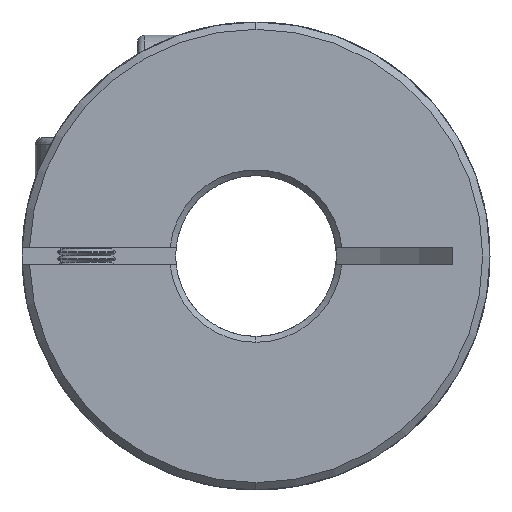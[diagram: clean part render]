
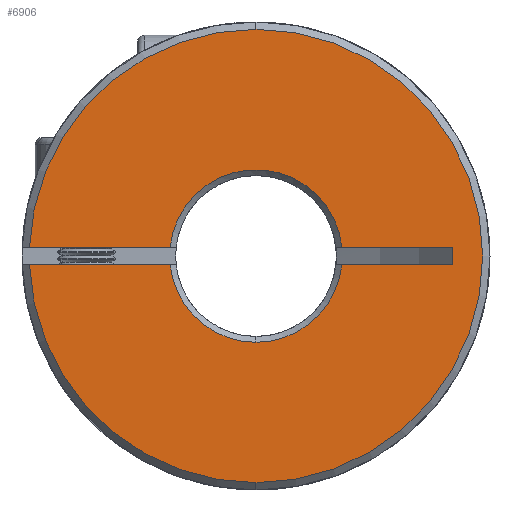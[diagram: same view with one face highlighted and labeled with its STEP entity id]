
A CAD part, front view. The second image highlights one B-rep face of the part: STEP entity #6906.
In plain terms, the highlighted planar face has unit normal (0, -1, 0).
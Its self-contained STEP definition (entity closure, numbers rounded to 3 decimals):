
#77 = ORIENTED_EDGE ( 'NONE', *, *, #5284, .T. ) ;
#298 = CARTESIAN_POINT ( 'NONE',  ( -15.488, 0., -0.6 ) ) ;
#307 = EDGE_CURVE ( 'NONE', #3661, #11068, #8196, .T. ) ;
#567 = AXIS2_PLACEMENT_3D ( 'NONE', #11250, #9388, #5016 ) ;
#568 = ORIENTED_EDGE ( 'NONE', *, *, #4072, .T. ) ;
#661 = ORIENTED_EDGE ( 'NONE', *, *, #2234, .T. ) ;
#698 = FACE_OUTER_BOUND ( 'NONE', #5302, .T. ) ;
#702 = LINE ( 'NONE', #2075, #2703 ) ;
#747 = DIRECTION ( 'NONE',  ( 0., 0., 1. ) ) ;
#779 = DIRECTION ( 'NONE',  ( 0., 0., 1. ) ) ;
#794 = DIRECTION ( 'NONE',  ( 0., 1., 0. ) ) ;
#1014 = EDGE_CURVE ( 'NONE', #8109, #3661, #10212, .T. ) ;
#1032 = EDGE_CURVE ( 'NONE', #1514, #10422, #3424, .T. ) ;
#1393 = DIRECTION ( 'NONE',  ( 0., -1., 0. ) ) ;
#1431 = VECTOR ( 'NONE', #2945, 1000. ) ;
#1514 = VERTEX_POINT ( 'NONE', #2802 ) ;
#1615 = DIRECTION ( 'NONE',  ( 0., -1., 0. ) ) ;
#1691 = CIRCLE ( 'NONE', #3878, 15.5 ) ;
#1785 = CIRCLE ( 'NONE', #4359, 15.5 ) ;
#1823 = CARTESIAN_POINT ( 'NONE',  ( 13.436, 0., -0.6 ) ) ;
#1950 = AXIS2_PLACEMENT_3D ( 'NONE', #2317, #794, #3991 ) ;
#2075 = CARTESIAN_POINT ( 'NONE',  ( -50., 0., -0.6 ) ) ;
#2079 = CARTESIAN_POINT ( 'NONE',  ( 5.869, 0., 0.6 ) ) ;
#2190 = ORIENTED_EDGE ( 'NONE', *, *, #307, .T. ) ;
#2234 = EDGE_CURVE ( 'NONE', #9757, #9997, #1785, .T. ) ;
#2317 = CARTESIAN_POINT ( 'NONE',  ( 0., 0., 0. ) ) ;
#2333 = VECTOR ( 'NONE', #9783, 1000. ) ;
#2388 = CARTESIAN_POINT ( 'NONE',  ( -50., 0., -0.6 ) ) ;
#2698 = EDGE_CURVE ( 'NONE', #10370, #7103, #702, .T. ) ;
#2703 = VECTOR ( 'NONE', #10739, 1000. ) ;
#2802 = CARTESIAN_POINT ( 'NONE',  ( 13.436, 0., 0.6 ) ) ;
#2813 = CIRCLE ( 'NONE', #5316, 15.5 ) ;
#2945 = DIRECTION ( 'NONE',  ( 1., 0., 0. ) ) ;
#3137 = ORIENTED_EDGE ( 'NONE', *, *, #1032, .T. ) ;
#3424 = LINE ( 'NONE', #1823, #2333 ) ;
#3661 = VERTEX_POINT ( 'NONE', #5380 ) ;
#3697 = LINE ( 'NONE', #10746, #1431 ) ;
#3878 = AXIS2_PLACEMENT_3D ( 'NONE', #5033, #1615, #747 ) ;
#3991 = DIRECTION ( 'NONE',  ( 0., 0., 1. ) ) ;
#4072 = EDGE_CURVE ( 'NONE', #9997, #8109, #1691, .T. ) ;
#4140 = ORIENTED_EDGE ( 'NONE', *, *, #2698, .F. ) ;
#4254 = EDGE_CURVE ( 'NONE', #11068, #1514, #3697, .T. ) ;
#4276 = CARTESIAN_POINT ( 'NONE',  ( -50., 0., -18.413 ) ) ;
#4359 = AXIS2_PLACEMENT_3D ( 'NONE', #10053, #1393, #7450 ) ;
#4439 = CARTESIAN_POINT ( 'NONE',  ( -50., 0., 0.6 ) ) ;
#4548 = CARTESIAN_POINT ( 'NONE',  ( -5.869, 0., -0.6 ) ) ;
#4806 = CARTESIAN_POINT ( 'NONE',  ( -15.488, 0., 0.6 ) ) ;
#4930 = VERTEX_POINT ( 'NONE', #7888 ) ;
#5016 = DIRECTION ( 'NONE',  ( 0., 0., 1. ) ) ;
#5033 = CARTESIAN_POINT ( 'NONE',  ( 0., 0., 0. ) ) ;
#5284 = EDGE_CURVE ( 'NONE', #4930, #7103, #9805, .T. ) ;
#5302 = EDGE_LOOP ( 'NONE', ( #4140, #8928, #661, #568, #7917, #2190, #9812, #3137, #5823, #10860, #77 ) ) ;
#5316 = AXIS2_PLACEMENT_3D ( 'NONE', #10274, #5977, #779 ) ;
#5378 = CARTESIAN_POINT ( 'NONE',  ( 13.436, 0., -0.6 ) ) ;
#5380 = CARTESIAN_POINT ( 'NONE',  ( -5.869, 0., 0.6 ) ) ;
#5476 = CARTESIAN_POINT ( 'NONE',  ( 0., 0., 0. ) ) ;
#5571 = VECTOR ( 'NONE', #8419, 1000. ) ;
#5823 = ORIENTED_EDGE ( 'NONE', *, *, #8688, .F. ) ;
#5835 = CARTESIAN_POINT ( 'NONE',  ( 0., 0., 15.5 ) ) ;
#5961 = CIRCLE ( 'NONE', #7278, 5.9 ) ;
#5977 = DIRECTION ( 'NONE',  ( 0., -1., 0. ) ) ;
#6042 = DIRECTION ( 'NONE',  ( 0., 1., 0. ) ) ;
#6806 = AXIS2_PLACEMENT_3D ( 'NONE', #4276, #6042, #8517 ) ;
#6906 = ADVANCED_FACE ( 'NONE', ( #698 ), #9353, .F. ) ;
#6914 = CARTESIAN_POINT ( 'NONE',  ( 0., 0., -15.5 ) ) ;
#7103 = VERTEX_POINT ( 'NONE', #4548 ) ;
#7278 = AXIS2_PLACEMENT_3D ( 'NONE', #5476, #8890, #10540 ) ;
#7315 = LINE ( 'NONE', #2388, #5571 ) ;
#7450 = DIRECTION ( 'NONE',  ( 0., 0., 1. ) ) ;
#7888 = CARTESIAN_POINT ( 'NONE',  ( 0., 0., -5.9 ) ) ;
#7917 = ORIENTED_EDGE ( 'NONE', *, *, #1014, .T. ) ;
#8109 = VERTEX_POINT ( 'NONE', #4806 ) ;
#8180 = EDGE_CURVE ( 'NONE', #10370, #9757, #2813, .T. ) ;
#8196 = CIRCLE ( 'NONE', #1950, 5.9 ) ;
#8389 = EDGE_CURVE ( 'NONE', #11205, #4930, #5961, .T. ) ;
#8419 = DIRECTION ( 'NONE',  ( 1., 0., 0. ) ) ;
#8517 = DIRECTION ( 'NONE',  ( 0., 0., 1. ) ) ;
#8688 = EDGE_CURVE ( 'NONE', #11205, #10422, #7315, .T. ) ;
#8890 = DIRECTION ( 'NONE',  ( 0., 1., 0. ) ) ;
#8928 = ORIENTED_EDGE ( 'NONE', *, *, #8180, .T. ) ;
#9353 = PLANE ( 'NONE',  #6806 ) ;
#9388 = DIRECTION ( 'NONE',  ( 0., 1., 0. ) ) ;
#9757 = VERTEX_POINT ( 'NONE', #6914 ) ;
#9783 = DIRECTION ( 'NONE',  ( 0., 0., -1. ) ) ;
#9805 = CIRCLE ( 'NONE', #567, 5.9 ) ;
#9812 = ORIENTED_EDGE ( 'NONE', *, *, #4254, .T. ) ;
#9820 = DIRECTION ( 'NONE',  ( 1., 0., 0. ) ) ;
#9997 = VERTEX_POINT ( 'NONE', #5835 ) ;
#10011 = CARTESIAN_POINT ( 'NONE',  ( 5.869, 0., -0.6 ) ) ;
#10053 = CARTESIAN_POINT ( 'NONE',  ( 0., 0., 0. ) ) ;
#10212 = LINE ( 'NONE', #4439, #10348 ) ;
#10274 = CARTESIAN_POINT ( 'NONE',  ( 0., 0., 0. ) ) ;
#10348 = VECTOR ( 'NONE', #9820, 1000. ) ;
#10370 = VERTEX_POINT ( 'NONE', #298 ) ;
#10422 = VERTEX_POINT ( 'NONE', #5378 ) ;
#10540 = DIRECTION ( 'NONE',  ( 0., 0., 1. ) ) ;
#10739 = DIRECTION ( 'NONE',  ( 1., 0., 0. ) ) ;
#10746 = CARTESIAN_POINT ( 'NONE',  ( -50., 0., 0.6 ) ) ;
#10860 = ORIENTED_EDGE ( 'NONE', *, *, #8389, .T. ) ;
#11068 = VERTEX_POINT ( 'NONE', #2079 ) ;
#11205 = VERTEX_POINT ( 'NONE', #10011 ) ;
#11250 = CARTESIAN_POINT ( 'NONE',  ( 0., 0., 0. ) ) ;
